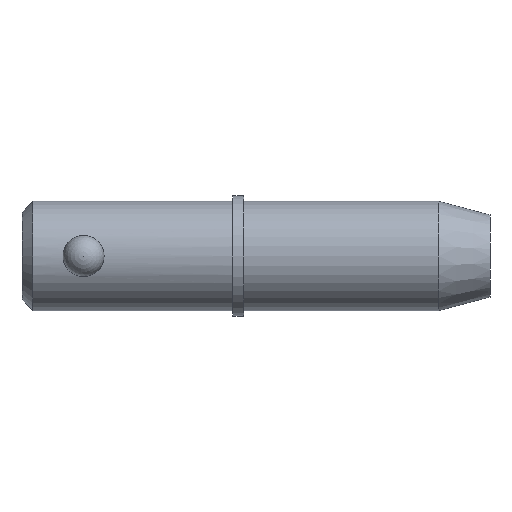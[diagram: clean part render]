
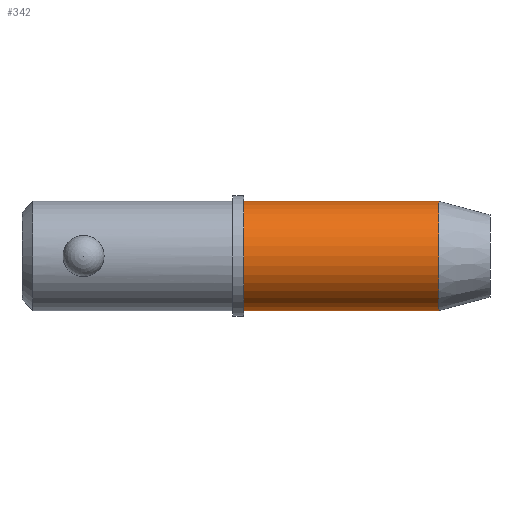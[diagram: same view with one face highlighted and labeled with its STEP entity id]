
A CAD part, front view. The second image highlights one B-rep face of the part: STEP entity #342.
In plain terms, the highlighted cylindrical face has radius 6.35 mm (diameter 12.7 mm), a partial arc.
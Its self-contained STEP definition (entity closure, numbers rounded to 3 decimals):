
#14 = EDGE_CURVE ( 'NONE', #739, #823, #150, .T. ) ;
#36 = CARTESIAN_POINT ( 'NONE',  ( 25.7, 0., 0. ) ) ;
#63 = DIRECTION ( 'NONE',  ( 1., 0., 0. ) ) ;
#65 = VECTOR ( 'NONE', #63, 1000. ) ;
#89 = DIRECTION ( 'NONE',  ( 1., 0., 0. ) ) ;
#98 = CIRCLE ( 'NONE', #608, 6.35 ) ;
#113 = AXIS2_PLACEMENT_3D ( 'NONE', #1013, #1003, #774 ) ;
#142 = CARTESIAN_POINT ( 'NONE',  ( 25.7, 0., 6.35 ) ) ;
#150 = LINE ( 'NONE', #571, #575 ) ;
#184 = DIRECTION ( 'NONE',  ( 1., 0., 0. ) ) ;
#264 = ORIENTED_EDGE ( 'NONE', *, *, #654, .F. ) ;
#342 = ADVANCED_FACE ( 'NONE', ( #372 ), #928, .T. ) ;
#372 = FACE_OUTER_BOUND ( 'NONE', #434, .T. ) ;
#373 = EDGE_CURVE ( 'NONE', #906, #823, #418, .T. ) ;
#418 = CIRCLE ( 'NONE', #113, 6.35 ) ;
#434 = EDGE_LOOP ( 'NONE', ( #264, #502, #769, #509 ) ) ;
#446 = CARTESIAN_POINT ( 'NONE',  ( 0., 0., 0. ) ) ;
#502 = ORIENTED_EDGE ( 'NONE', *, *, #842, .T. ) ;
#509 = ORIENTED_EDGE ( 'NONE', *, *, #373, .F. ) ;
#571 = CARTESIAN_POINT ( 'NONE',  ( 0., 0., -6.35 ) ) ;
#575 = VECTOR ( 'NONE', #89, 1000. ) ;
#600 = CARTESIAN_POINT ( 'NONE',  ( 48.355, 0., -6.35 ) ) ;
#601 = DIRECTION ( 'NONE',  ( 1., 0., 0. ) ) ;
#604 = CARTESIAN_POINT ( 'NONE',  ( 48.355, 0., 6.35 ) ) ;
#608 = AXIS2_PLACEMENT_3D ( 'NONE', #36, #184, #1019 ) ;
#625 = LINE ( 'NONE', #951, #65 ) ;
#654 = EDGE_CURVE ( 'NONE', #701, #906, #625, .T. ) ;
#701 = VERTEX_POINT ( 'NONE', #142 ) ;
#739 = VERTEX_POINT ( 'NONE', #749 ) ;
#749 = CARTESIAN_POINT ( 'NONE',  ( 25.7, 0., -6.35 ) ) ;
#769 = ORIENTED_EDGE ( 'NONE', *, *, #14, .T. ) ;
#774 = DIRECTION ( 'NONE',  ( 0., 0., -1. ) ) ;
#823 = VERTEX_POINT ( 'NONE', #600 ) ;
#842 = EDGE_CURVE ( 'NONE', #701, #739, #98, .T. ) ;
#857 = DIRECTION ( 'NONE',  ( 0., 0., -1. ) ) ;
#898 = AXIS2_PLACEMENT_3D ( 'NONE', #446, #601, #857 ) ;
#906 = VERTEX_POINT ( 'NONE', #604 ) ;
#928 = CYLINDRICAL_SURFACE ( 'NONE', #898, 6.35 ) ;
#951 = CARTESIAN_POINT ( 'NONE',  ( 0., 0., 6.35 ) ) ;
#1003 = DIRECTION ( 'NONE',  ( 1., 0., 0. ) ) ;
#1013 = CARTESIAN_POINT ( 'NONE',  ( 48.355, 0., 0. ) ) ;
#1019 = DIRECTION ( 'NONE',  ( 0., 0., -1. ) ) ;
